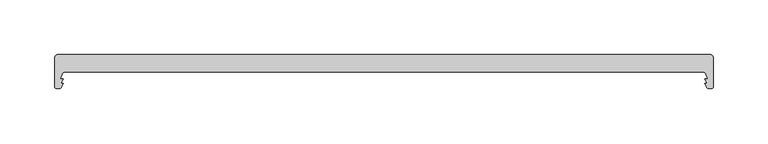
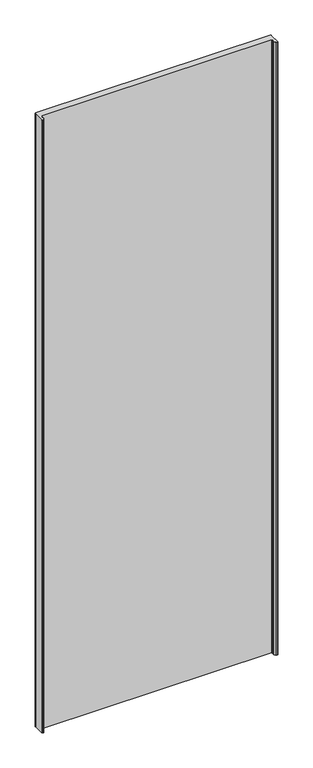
"""IFC4 building model written with IfcOpenShell, lengths in millimetres: plate geometry, Walls_Curtain-Walls_Danpal_TP : Walls_Curtain-Walls_Danpal_TP."""

from ifc_helpers import new_model, si_unit, point, frame_2d, origin, origin_with_axes, place, context, project, spatial, polyline, circle_curve, trimmed, segment, composite_curve, outline, extrude, source, transform, mapped, element, save


def plate_593a4ae1(model_context):
    return source(origin(), model_context, "Body", "SweptSolid", [
        extrude(outline(composite_curve([segment(trimmed(circle_curve(frame_2d((296.8491187, -2.6508813)), 2.6508813), [point((296.8491187, 0.0))], [point((299.5, -2.6508813))], False, "CARTESIAN"), True, "CONTINUOUS"), segment(polyline([(299.5, -2.6508813), (299.5, -29.6745594)]), True, "CONTINUOUS"), segment(trimmed(circle_curve(frame_2d((298.1745594, -29.6745594)), 1.3254406), [point((299.5, -29.6745594))], [point((298.1745594, -31.0))], False, "CARTESIAN"), True, "CONTINUOUS"), segment(polyline([(298.1745594, -31.0), (295.1998904, -31.0)]), True, "CONTINUOUS"), segment(trimmed(circle_curve(frame_2d((295.1998904, -29.5)), 1.5), [point((295.1998904, -31.0))], [point((293.8615937, -30.1774675))], False, "CARTESIAN"), True, "CONTINUOUS"), segment(polyline([(293.8615937, -30.1774675), (292.0, -26.5), (294.1714966, -26.5), (292.0, -22.2103379), (294.4106029, -22.2103379), (292.6451446, -17.3207839)]), True, "CONTINUOUS"), segment(trimmed(circle_curve(frame_2d((290.7640105, -18.0)), 2.0), [point((292.6451446, -17.3207839))], [point((290.7640105, -16.0))], True, "CARTESIAN"), True, "CONTINUOUS"), segment(polyline([(290.7640105, -16.0), (-291.7640105, -16.0)]), True, "CONTINUOUS"), segment(trimmed(circle_curve(frame_2d((-291.7640105, -18.0)), 2.0), [point((-291.7640105, -16.0))], [point((-293.6451446, -17.3207839))], True, "CARTESIAN"), True, "CONTINUOUS"), segment(polyline([(-293.6451446, -17.3207839), (-295.4106029, -22.2103379), (-293.0, -22.2103379), (-295.1714966, -26.5), (-293.0, -26.5), (-294.8615937, -30.1774675)]), True, "CONTINUOUS"), segment(trimmed(circle_curve(frame_2d((-296.1998904, -29.5)), 1.5), [point((-294.8615937, -30.1774675))], [point((-296.1998904, -31.0))], False, "CARTESIAN"), True, "CONTINUOUS"), segment(polyline([(-296.1998904, -31.0), (-299.1745594, -31.0)]), True, "CONTINUOUS"), segment(trimmed(circle_curve(frame_2d((-299.1745594, -29.6745594)), 1.3254406), [point((-299.1745594, -31.0))], [point((-300.5, -29.6745594))], False, "CARTESIAN"), True, "CONTINUOUS"), segment(polyline([(-300.5, -29.6745594), (-300.5, -2.6508813)]), True, "CONTINUOUS"), segment(trimmed(circle_curve(frame_2d((-297.8491187, -2.6508813)), 2.6508813), [point((-300.5, -2.6508813))], [point((-297.8491187, 0.0))], False, "CARTESIAN"), True, "CONTINUOUS"), segment(polyline([(-297.8491187, 0.0), (296.8491187, 0.0)]), True, "CONTINUOUS")], self_intersect=False)), origin_with_axes(), (0.0, 0.0, 1.0), 1643.9352814),
    ])


if __name__ == "__main__":
    model = new_model("IFC4")
    model_context = context("Model", 3, world=origin())
    ifc_project = project(units=[si_unit("LENGTHUNIT", "METRE", prefix="MILLI")], contexts=[model_context])
    site = spatial("IfcSite", under=ifc_project)
    building = spatial("IfcBuilding", under=site)
    placement = place(None, origin())
    plate_shape = plate_593a4ae1(model_context)
    element("IfcPlate", 1, ObjectType="Walls_Curtain-Walls_Danpal_TP : Walls_Curtain-Walls_Danpal_TP", at=placement, inside=building, context=model_context, shape_type="MappedRepresentation", body=[
        mapped(plate_shape, transform((0.0, 0.0, 0.0), x_axis=(1.0, 0.0, 0.0), y_axis=(0.0, 1.0, 0.0), z_axis=(0.0, 0.0, 1.0))),
    ])
    save(model, "model.ifc")
